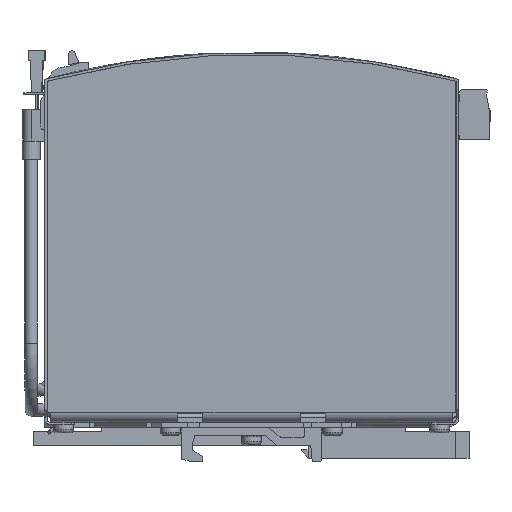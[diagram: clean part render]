
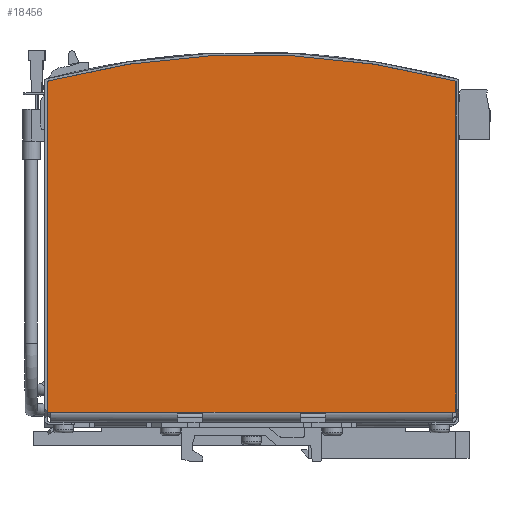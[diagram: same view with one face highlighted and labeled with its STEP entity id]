
A CAD part, front view. The second image highlights one B-rep face of the part: STEP entity #18456.
In plain terms, the highlighted planar face has unit normal (0, -1, 0) as drawn and (-1, 0, 0) by its records, which use the part's own axes.
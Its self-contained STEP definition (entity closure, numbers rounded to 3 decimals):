
#17869=CARTESIAN_POINT('',(1.697,-93.397,3.));
#17870=VERTEX_POINT('',#17869);
#17878=CARTESIAN_POINT('',(1.697,26.903,3.));
#17879=VERTEX_POINT('',#17878);
#17880=CARTESIAN_POINT('',(1.697,-93.397,3.));
#17881=DIRECTION('',(0.0,1.0,0.0));
#17882=VECTOR('',#17881,120.3);
#17883=LINE('',#17880,#17882);
#17884=EDGE_CURVE('',#17870,#17879,#17883,.T.);
#17986=CARTESIAN_POINT('',(1.697,-94.397,3.));
#17987=VERTEX_POINT('',#17986);
#17994=CARTESIAN_POINT('',(1.697,-94.397,3.));
#17995=DIRECTION('',(0.,1.0,0.));
#17996=VECTOR('',#17995,1.0);
#17997=LINE('',#17994,#17996);
#17998=EDGE_CURVE('',#17987,#17870,#17997,.T.);
#18161=CARTESIAN_POINT('',(1.697,27.903,3.));
#18162=VERTEX_POINT('',#18161);
#18163=CARTESIAN_POINT('',(1.697,26.903,3.));
#18164=DIRECTION('',(0.0,1.0,0.0));
#18165=VECTOR('',#18164,1.);
#18166=LINE('',#18163,#18165);
#18167=EDGE_CURVE('',#17879,#18162,#18166,.T.);
#18223=CARTESIAN_POINT('',(1.697,-94.397,101.693));
#18224=VERTEX_POINT('',#18223);
#18231=CARTESIAN_POINT('',(1.697,-94.397,101.693));
#18232=DIRECTION('',(0.0,0.0,-1.0));
#18233=VECTOR('',#18232,98.693);
#18234=LINE('',#18231,#18233);
#18235=EDGE_CURVE('',#18224,#17987,#18234,.T.);
#18344=CARTESIAN_POINT('',(1.697,27.903,101.693));
#18345=VERTEX_POINT('',#18344);
#18346=CARTESIAN_POINT('',(1.697,27.903,3.));
#18347=DIRECTION('',(0.0,0.0,1.0));
#18348=VECTOR('',#18347,98.693);
#18349=LINE('',#18346,#18348);
#18350=EDGE_CURVE('',#18162,#18345,#18349,.T.);
#18374=CARTESIAN_POINT('',(1.697,27.53,102.177));
#18375=VERTEX_POINT('',#18374);
#18376=CARTESIAN_POINT('',(1.697,27.403,101.693));
#18377=DIRECTION('',(1.,0.0,0.0));
#18378=DIRECTION('',(0.0,0.792,0.611));
#18379=AXIS2_PLACEMENT_3D('',#18376,#18377,#18378);
#18380=CIRCLE('',#18379,0.5);
#18381=EDGE_CURVE('',#18345,#18375,#18380,.T.);
#18408=CARTESIAN_POINT('',(1.697,-94.023,102.177));
#18409=VERTEX_POINT('',#18408);
#18410=CARTESIAN_POINT('',(1.697,-33.247,-130.));
#18411=DIRECTION('',(-1.,0.,0.));
#18412=DIRECTION('',(0.,-0.255,0.967));
#18413=AXIS2_PLACEMENT_3D('',#18410,#18411,#18412);
#18414=CIRCLE('',#18413,240.);
#18415=EDGE_CURVE('',#18409,#18375,#18414,.T.);
#18435=CARTESIAN_POINT('',(1.697,-33.247,55.75));
#18436=DIRECTION('',(1.0,0.0,0.0));
#18437=DIRECTION('',(0.0,0.0,-1.0));
#18438=AXIS2_PLACEMENT_3D('',#18435,#18436,#18437);
#18439=PLANE('',#18438);
#18440=ORIENTED_EDGE('',*,*,#18381,.F.);
#18441=ORIENTED_EDGE('',*,*,#18350,.F.);
#18442=ORIENTED_EDGE('',*,*,#18167,.F.);
#18443=ORIENTED_EDGE('',*,*,#17884,.F.);
#18444=ORIENTED_EDGE('',*,*,#17998,.F.);
#18445=ORIENTED_EDGE('',*,*,#18235,.F.);
#18446=CARTESIAN_POINT('',(1.697,-93.897,101.693));
#18447=DIRECTION('',(1.,0.0,0.0));
#18448=DIRECTION('',(0.0,-0.792,0.611));
#18449=AXIS2_PLACEMENT_3D('',#18446,#18447,#18448);
#18450=CIRCLE('',#18449,0.5);
#18451=EDGE_CURVE('',#18409,#18224,#18450,.T.);
#18452=ORIENTED_EDGE('',*,*,#18451,.F.);
#18453=ORIENTED_EDGE('',*,*,#18415,.T.);
#18454=EDGE_LOOP('',(#18440,#18441,#18442,#18443,#18444,#18445,#18452,#18453));
#18455=FACE_OUTER_BOUND('',#18454,.T.);
#18456=ADVANCED_FACE('',(#18455),#18439,.F.);
